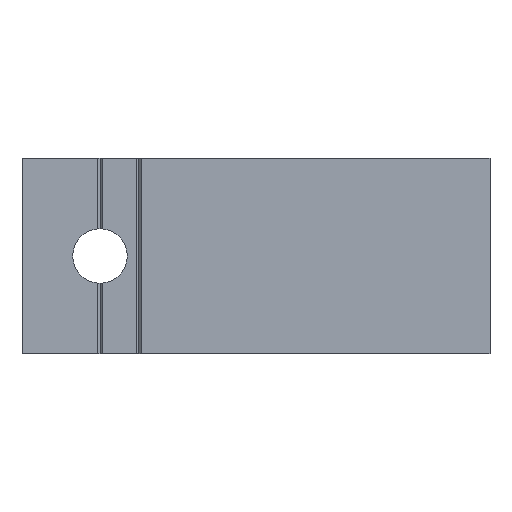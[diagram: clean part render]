
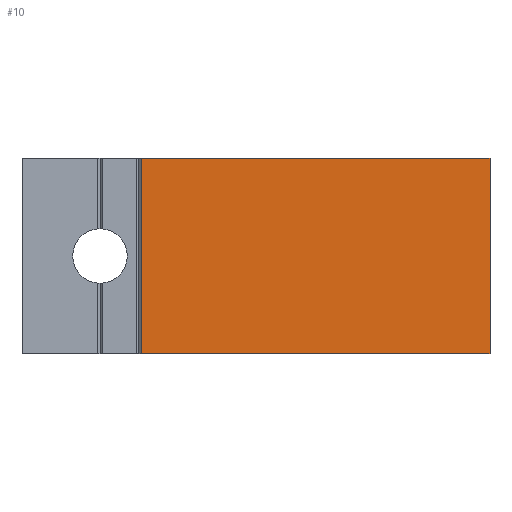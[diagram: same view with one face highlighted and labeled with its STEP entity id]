
A CAD part, front view. The second image highlights one B-rep face of the part: STEP entity #10.
In plain terms, the highlighted planar face has unit normal (0, -1, 0).
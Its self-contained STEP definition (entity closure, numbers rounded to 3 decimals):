
#10 = ADVANCED_FACE ( 'NONE', ( #1231 ), #496, .F. ) ;
#252 = CARTESIAN_POINT ( 'NONE',  ( 0., 0., -12.5 ) ) ;
#291 = CARTESIAN_POINT ( 'NONE',  ( 0., 0., 12.5 ) ) ;
#305 = CARTESIAN_POINT ( 'NONE',  ( -44.7, 0., -12.5 ) ) ;
#308 = CARTESIAN_POINT ( 'NONE',  ( -44.7, 0., 12.5 ) ) ;
#317 = CARTESIAN_POINT ( 'NONE',  ( 0., 0., -12.5 ) ) ;
#392 = DIRECTION ( 'NONE',  ( 0., 0., -1. ) ) ;
#395 = CARTESIAN_POINT ( 'NONE',  ( -44.7, 0., 12.5 ) ) ;
#483 = DIRECTION ( 'NONE',  ( 0., 0., 1. ) ) ;
#486 = DIRECTION ( 'NONE',  ( 0., 1., 0. ) ) ;
#496 = PLANE ( 'NONE',  #892 ) ;
#518 = CARTESIAN_POINT ( 'NONE',  ( 0., 0., 12.5 ) ) ;
#580 = DIRECTION ( 'NONE',  ( 1., 0., 0. ) ) ;
#581 = CARTESIAN_POINT ( 'NONE',  ( 0., 0., 12.5 ) ) ;
#605 = CARTESIAN_POINT ( 'NONE',  ( 0., 0., 12.5 ) ) ;
#666 = DIRECTION ( 'NONE',  ( 0., 0., -1. ) ) ;
#757 = DIRECTION ( 'NONE',  ( 1., 0., 0. ) ) ;
#777 = EDGE_CURVE ( 'NONE', #1272, #1259, #1147, .T. ) ;
#784 = EDGE_CURVE ( 'NONE', #1261, #1259, #1138, .T. ) ;
#859 = EDGE_CURVE ( 'NONE', #1257, #1272, #1010, .T. ) ;
#892 = AXIS2_PLACEMENT_3D ( 'NONE', #518, #486, #483 ) ;
#906 = EDGE_CURVE ( 'NONE', #1257, #1261, #1768, .T. ) ;
#1007 = VECTOR ( 'NONE', #580, 1000. ) ;
#1010 = LINE ( 'NONE', #581, #1007 ) ;
#1128 = VECTOR ( 'NONE', #757, 1000. ) ;
#1138 = LINE ( 'NONE', #252, #1128 ) ;
#1142 = VECTOR ( 'NONE', #666, 1000. ) ;
#1147 = LINE ( 'NONE', #605, #1142 ) ;
#1231 = FACE_OUTER_BOUND ( 'NONE', #1388, .T. ) ;
#1257 = VERTEX_POINT ( 'NONE', #308 ) ;
#1259 = VERTEX_POINT ( 'NONE', #317 ) ;
#1261 = VERTEX_POINT ( 'NONE', #305 ) ;
#1272 = VERTEX_POINT ( 'NONE', #291 ) ;
#1388 = EDGE_LOOP ( 'NONE', ( #1446, #1447, #1448, #1449 ) ) ;
#1446 = ORIENTED_EDGE ( 'NONE', *, *, #784, .T. ) ;
#1447 = ORIENTED_EDGE ( 'NONE', *, *, #777, .F. ) ;
#1448 = ORIENTED_EDGE ( 'NONE', *, *, #859, .F. ) ;
#1449 = ORIENTED_EDGE ( 'NONE', *, *, #906, .T. ) ;
#1766 = VECTOR ( 'NONE', #392, 1000. ) ;
#1768 = LINE ( 'NONE', #395, #1766 ) ;
